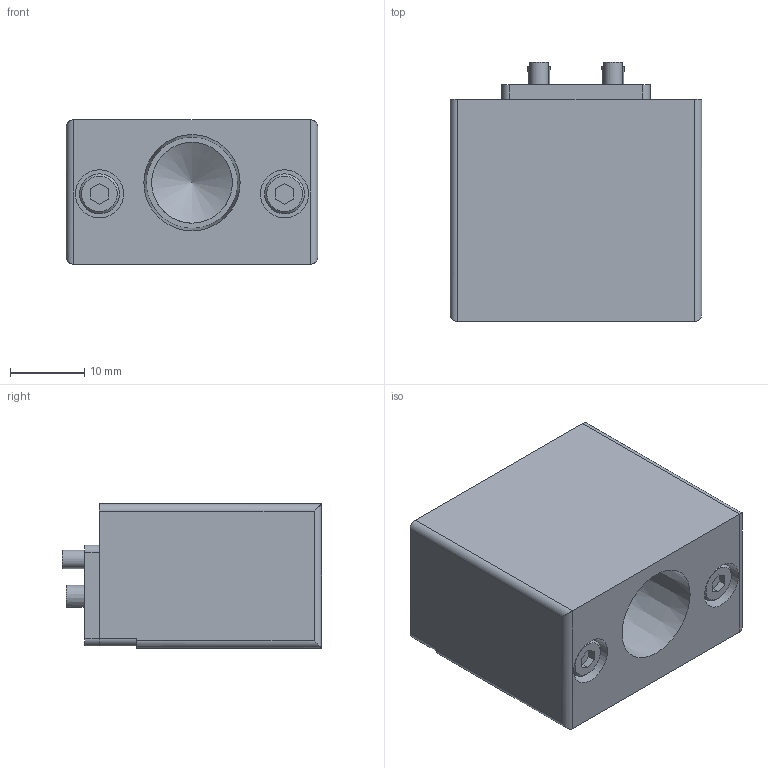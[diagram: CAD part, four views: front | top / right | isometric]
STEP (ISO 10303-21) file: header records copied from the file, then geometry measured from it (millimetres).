
FILE_DESCRIPTION(('STEP AP214'),'1');
FILE_NAME('KHB-1RS-EP81_ver1.stp','2026-04-23T23:42:38',(' '),(' '),'Spatial InterOp 3D',' ',' ');
FILE_SCHEMA(('AUTOMOTIVE_DESIGN { 1 0 10303 214 1 1 1 1 }'));
Length unit declared in the file: millimetre
Products named in the file (1): KHB-1RS-EP81_ver1
Bounding box: 34 x 35 x 19.5 mm (x, y, z)
Volume: 17378.5 mm3; surface area: 7299.1 mm2
Topology: 1 solids, 9 shells, 117 faces, 243 edges, 162 vertices
Faces by surface type: plane 71, cylinder 36, cone 10
Full cylindrical faces by diameter (mm): 2.5 x8, 3 x2, 3.5 x4, 5.41 x4, 6.5 x4, 9 x1, 10.9 x1
Entity records: 3848 total; most frequent: CARTESIAN_POINT 544, DIRECTION 508, ORIENTED_EDGE 388, AXIS2_PLACEMENT_3D 197, EDGE_CURVE 194, EDGE_LOOP 176, VERTEX_POINT 149, FACE_OUTER_BOUND 141
